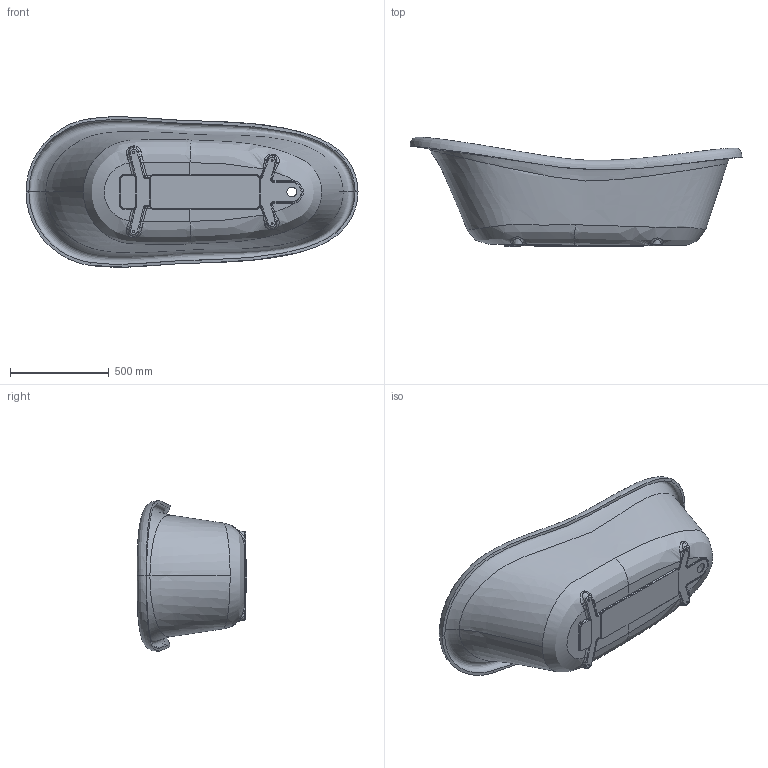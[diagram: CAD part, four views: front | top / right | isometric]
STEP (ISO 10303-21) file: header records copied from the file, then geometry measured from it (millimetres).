
FILE_DESCRIPTION(/* description */ (''),/* implementation_level */ '2;1');
FILE_NAME(/* name */ 'c:\worker\convert-fusion-r09\tmp\job-1\11\output\files\7ed5c5e2-eadc-4fab-86ba-e8b97f684bcd\844d3a5b-13ee-4365-8d7f-3ab1d813263b.stp',/* time_stamp */ '2020-01-03T14:30:22+00:00',/* author */ (''),/* organization */ (''),/* preprocessor_version */ 'ST-DEVELOPER v18',/* originating_system */ 'Autodesk Translation Framework v8.12.0.6',/* authorisation */ '');
FILE_SCHEMA (('AUTOMOTIVE_DESIGN { 1 0 10303 214 3 1 1 }'));
Products named in the file (1): Atena 168
Bounding box: 1680 x 555.11 x 761.06 mm (x, y, z)
Volume: 34876239.3 mm3; surface area: 4502612.1 mm2
Topology: 1 solids, 1 shells, 201 faces, 889 edges, 693 vertices
Faces by surface type: bspline 141, cylinder 24, plane 21, torus 10, cone 5
Full cylindrical faces by diameter (mm): 10 x4, 50 x1
Entity records: 166980 total; most frequent: CARTESIAN_POINT 161435, ORIENTED_EDGE 1778, EDGE_CURVE 889, VERTEX_POINT 693, DIRECTION 675, AXIS2_PLACEMENT_3D 303, CIRCLE 218, EDGE_LOOP 206
